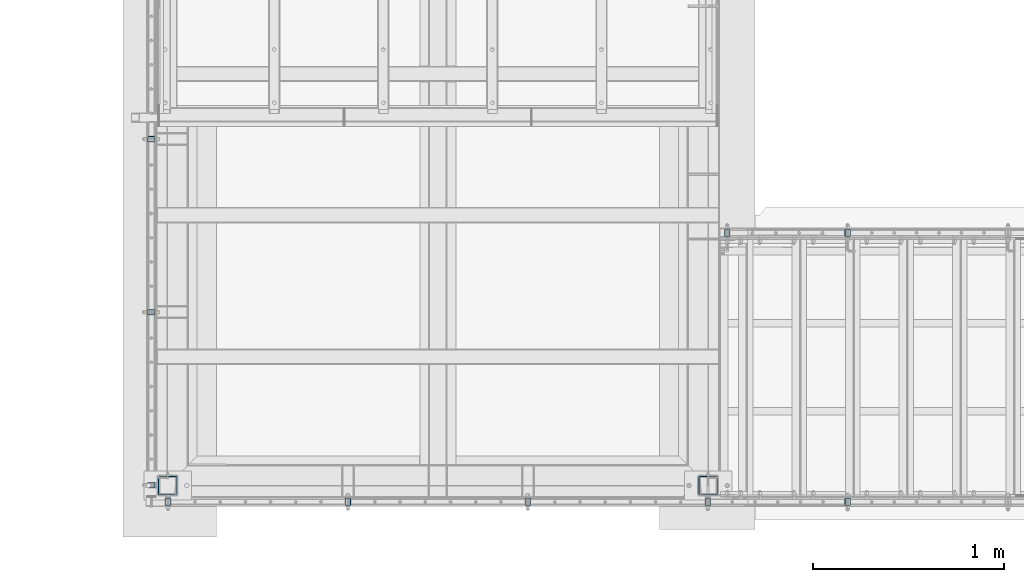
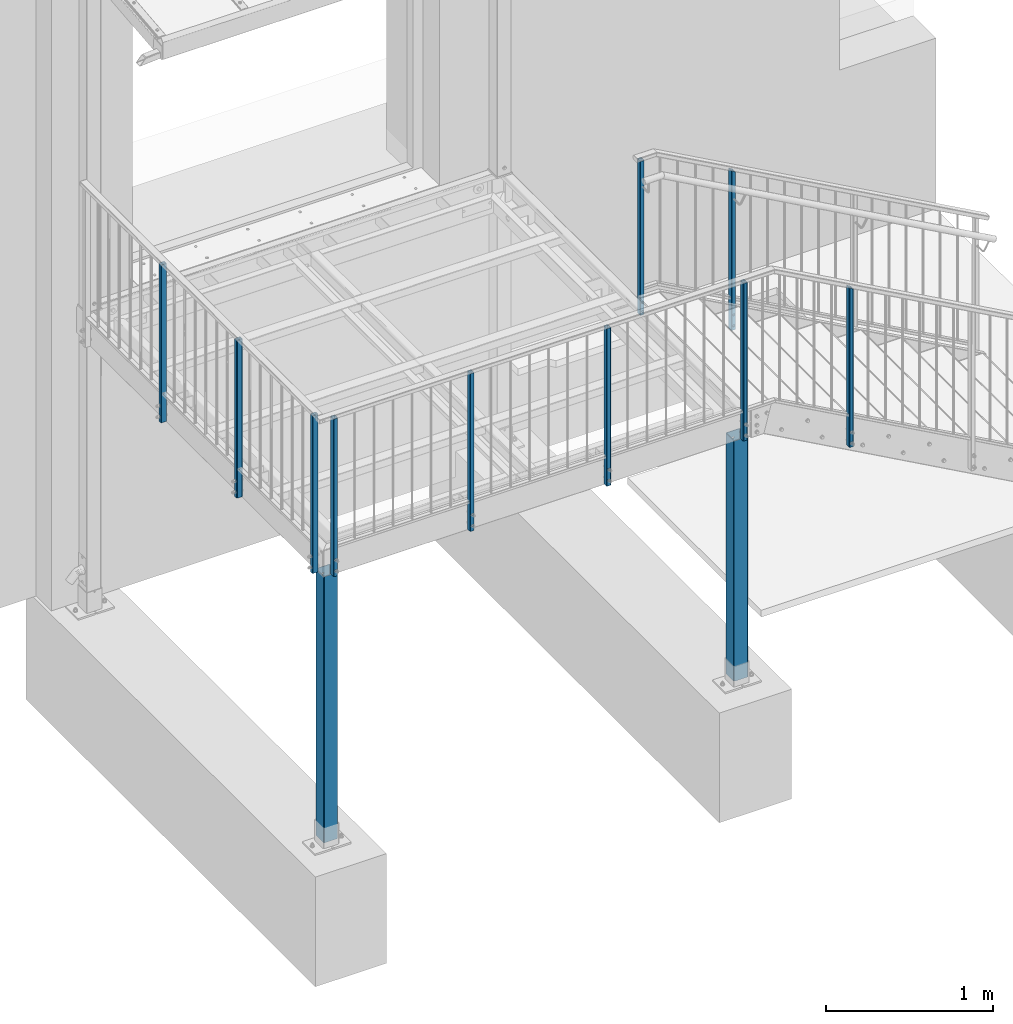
# One storey, part 1 of 116: 12 columns, 60 openings.
"""IFC2X3 building model written with IfcOpenShell, lengths in millimetres."""

from ifc_helpers import new_model, entity, si_unit, converted_unit, frame, frame_2d, origin, origin_with_axes, origin_2d, origin_2d_with_axis, place, context, project, spatial, hollow_rectangle, circle, extrude, clip, halfspace, material, element, save


model = new_model("IFC2X3")

# Units and contexts
model_context = context("Model", 3, precision=1e-09, world=origin_with_axes())
ifc_project = project(units=[si_unit("LENGTHUNIT", "METRE", prefix="MILLI"), si_unit("AREAUNIT", "SQUARE_METRE"), si_unit("VOLUMEUNIT", "CUBIC_METRE"), converted_unit("PLANEANGLEUNIT", "DEGREE", entity("IfcPlaneAngleMeasure", 0.01745329), si_unit("PLANEANGLEUNIT", "RADIAN"), dimensions=[0, 0, 0, 0, 0, 0, 0])], contexts=[model_context])

# Site, building, storey
site_placement = place(None, origin_with_axes())
site = spatial("IfcSite", under=ifc_project, at=site_placement, Name="Site", CompositionType="ELEMENT")
building_placement = place(site_placement, origin_with_axes())
building = spatial("IfcBuilding", under=site, at=building_placement, Name="Struktur 1", CompositionType="ELEMENT")
storey_placement = place(building_placement, origin_with_axes())
storey = spatial("IfcBuildingStorey", under=building, at=storey_placement, Name="Default Storey", CompositionType="ELEMENT", Elevation=0.0)

# Column, openings
ifc_material = material(Name="S235JR")
column_1_placement = place(None, frame((58267.049134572, 10455.357883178, -158.000000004), z_axis=(0.0, 0.0, 1.0), x_axis=(1.0, 0.0, 0.0)))
column_1 = element("IfcColumn", 1, at=column_1_placement, inside=storey, material=ifc_material, Name="-", ObjectType="-", context=model_context, shape_type="SweptSolid", body=[
    extrude(hollow_rectangle(XDim=30.0, YDim=40.0, WallThickness=3.0, InnerFilletRadius=3.0, OuterFilletRadius=6.0, at=origin_2d()), origin(), (0.0, 0.0, 1.0), 1123.000000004),
])
opening_1_placement = place(column_1_placement, frame((11.5, 0.0, 183.000000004), z_axis=(1.0, 0.0, 0.0), x_axis=(0.0, 1.0, 0.0)))
element("IfcOpeningElement", 2, at=opening_1_placement, cuts=column_1, ObjectType="Opening", context=model_context, shape_type="SweptSolid", body=[
    extrude(circle(Radius=5.001, at=origin_2d_with_axis()), origin(), (0.0, 0.0, 1.0), 4.0),
])
opening_2_placement = place(column_1_placement, frame((11.5, 0.0, 183.000000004), z_axis=(1.0, 0.0, 0.0), x_axis=(0.0, 1.0, 0.0)))
element("IfcOpeningElement", 3, at=opening_2_placement, cuts=column_1, ObjectType="Opening", context=model_context, shape_type="SweptSolid", body=[
    extrude(circle(Radius=5.001, at=origin_2d_with_axis()), origin(), (0.0, 0.0, 1.0), 4.0),
])
opening_3_placement = place(column_1_placement, frame((0.0, 20.5, 25.0), z_axis=(0.0, -1.0, 0.0), x_axis=(1.0, 0.0, 0.0)))
element("IfcOpeningElement", 4, at=opening_3_placement, cuts=column_1, ObjectType="Opening", context=model_context, shape_type="SweptSolid", body=[
    extrude(circle(Radius=8.001, at=origin_2d_with_axis()), origin(), (0.0, 0.0, 1.0), 4.0),
])
opening_4_placement = place(column_1_placement, frame((0.0, -16.5, 25.0), z_axis=(0.0, -1.0, 0.0), x_axis=(1.0, 0.0, 0.0)))
element("IfcOpeningElement", 5, at=opening_4_placement, cuts=column_1, ObjectType="Opening", context=model_context, shape_type="SweptSolid", body=[
    extrude(circle(Radius=8.001, at=origin_2d_with_axis()), origin(), (0.0, 0.0, 1.0), 4.0),
])
opening_5_placement = place(column_1_placement, frame((0.0, 20.5, 90.000000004), z_axis=(0.0, -1.0, 0.0), x_axis=(1.0, 0.0, 0.0)))
element("IfcOpeningElement", 6, at=opening_5_placement, cuts=column_1, ObjectType="Opening", context=model_context, shape_type="SweptSolid", body=[
    extrude(circle(Radius=8.001, at=origin_2d_with_axis()), origin(), (0.0, 0.0, 1.0), 4.0),
])
opening_6_placement = place(column_1_placement, frame((0.0, -16.5, 90.000000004), z_axis=(0.0, -1.0, 0.0), x_axis=(1.0, 0.0, 0.0)))
element("IfcOpeningElement", 7, at=opening_6_placement, cuts=column_1, ObjectType="Opening", context=model_context, shape_type="SweptSolid", body=[
    extrude(circle(Radius=8.001, at=origin_2d_with_axis()), origin(), (0.0, 0.0, 1.0), 4.0),
])

column_2_placement = place(None, frame((58897.049134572, 9047.359883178, -488.0), z_axis=(0.0, 0.0, -1.0), x_axis=(1.0, 0.0, 0.0)))
column_2 = element("IfcColumn", 8, at=column_2_placement, inside=storey, material=ifc_material, Name="-", ObjectType="-", context=model_context, shape_type="Clipping", body=[
    clip(extrude(hollow_rectangle(XDim=30.0, YDim=40.0, WallThickness=3.0, InnerFilletRadius=3.0, OuterFilletRadius=6.0, at=origin_2d()), origin(), (0.0, 0.0, -1.0), 1183.660016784), halfspace(frame((-44799.386950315, 9047.359883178, -25954.744590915), z_axis=(-0.484315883, 0.0, 0.874893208), x_axis=(0.0, 1.0, 0.0)), True)),
])
opening_7_placement = place(column_2_placement, frame((-11.5, 0.0, -513.0), z_axis=(-1.0, 0.0, 0.0), x_axis=(0.0, 1.0, 0.0)))
element("IfcOpeningElement", 9, at=opening_7_placement, cuts=column_2, ObjectType="Opening", context=model_context, shape_type="SweptSolid", body=[
    extrude(circle(Radius=5.001, at=frame_2d((0.0, -281.031462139), x_axis=(1.0, 0.0))), origin(), (0.0, 0.0, 1.0), 4.0),
])
opening_8_placement = place(column_2_placement, frame((11.5, -5.001, -215.360841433), z_axis=(-1.0, 0.0, 0.0), x_axis=(0.0, -1.0, 0.0)))
element("IfcOpeningElement", 10, at=opening_8_placement, cuts=column_2, ObjectType="Opening", context=model_context, shape_type="SweptSolid", body=[
    extrude(circle(Radius=5.001, at=frame_2d((-5.001, 0.0), x_axis=(1.0, 0.0))), origin(), (0.0, 0.0, -1.0), 4.0),
])
opening_9_placement = place(column_2_placement, frame((-8.001, -16.5, -30.0), z_axis=(0.0, 1.0, 0.0), x_axis=(-1.0, 0.0, 0.0)))
element("IfcOpeningElement", 11, at=opening_9_placement, cuts=column_2, ObjectType="Opening", context=model_context, shape_type="SweptSolid", body=[
    extrude(circle(Radius=8.001, at=frame_2d((-8.001, 0.0), x_axis=(1.0, 0.0))), origin(), (0.0, 0.0, -1.0), 4.0),
])
opening_10_placement = place(column_2_placement, frame((-8.001, 20.5, -30.0), z_axis=(0.0, 1.0, 0.0), x_axis=(-1.0, 0.0, 0.0)))
element("IfcOpeningElement", 12, at=opening_10_placement, cuts=column_2, ObjectType="Opening", context=model_context, shape_type="SweptSolid", body=[
    extrude(circle(Radius=8.001, at=frame_2d((-8.001, 0.0), x_axis=(1.0, 0.0))), origin(), (0.0, 0.0, -1.0), 4.0),
])
opening_11_placement = place(column_2_placement, frame((-8.001, -16.5, -110.0), z_axis=(0.0, 1.0, 0.0), x_axis=(-1.0, 0.0, 0.0)))
element("IfcOpeningElement", 13, at=opening_11_placement, cuts=column_2, ObjectType="Opening", context=model_context, shape_type="SweptSolid", body=[
    extrude(circle(Radius=8.001, at=frame_2d((-8.001, 0.0), x_axis=(1.0, 0.0))), origin(), (0.0, 0.0, -1.0), 4.0),
])
opening_12_placement = place(column_2_placement, frame((-8.001, 20.5, -110.0), z_axis=(0.0, 1.0, 0.0), x_axis=(-1.0, 0.0, 0.0)))
element("IfcOpeningElement", 14, at=opening_12_placement, cuts=column_2, ObjectType="Opening", context=model_context, shape_type="SweptSolid", body=[
    extrude(circle(Radius=8.001, at=frame_2d((-8.001, 0.0), x_axis=(1.0, 0.0))), origin(), (0.0, 0.0, -1.0), 4.0),
])

column_3_placement = place(None, frame((58897.049134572, 10455.357883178, -488.0), z_axis=(0.0, 0.0, 1.0), x_axis=(1.0, 0.0, 0.0)))
column_3 = element("IfcColumn", 15, at=column_3_placement, inside=storey, material=ifc_material, Name="-", ObjectType="-", context=model_context, shape_type="Clipping", body=[
    clip(extrude(hollow_rectangle(XDim=30.0, YDim=40.0, WallThickness=3.0, InnerFilletRadius=3.0, OuterFilletRadius=6.0, at=origin_2d()), origin(), (0.0, 0.0, 1.0), 1183.660016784), halfspace(frame((-44799.386950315, -10455.357883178, 25954.744590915), z_axis=(-0.484315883, 0.0, -0.874893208), x_axis=(0.0, -1.0, 0.0)), True)),
])
opening_13_placement = place(column_3_placement, frame((-11.5, -5.001, 231.968537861), z_axis=(1.0, 0.0, 0.0), x_axis=(0.0, 1.0, 0.0)))
element("IfcOpeningElement", 16, at=opening_13_placement, cuts=column_3, ObjectType="Opening", context=model_context, shape_type="SweptSolid", body=[
    extrude(circle(Radius=5.001, at=frame_2d((5.001, 0.0), x_axis=(1.0, 0.0))), origin(), (0.0, 0.0, -1.0), 4.0),
])
opening_14_placement = place(column_3_placement, frame((11.5, 0.0, 513.0), z_axis=(1.0, 0.0, 0.0), x_axis=(0.0, 1.0, 0.0)))
element("IfcOpeningElement", 17, at=opening_14_placement, cuts=column_3, ObjectType="Opening", context=model_context, shape_type="SweptSolid", body=[
    extrude(circle(Radius=5.001, at=frame_2d((0.0, -297.639158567), x_axis=(1.0, 0.0))), origin(), (0.0, 0.0, 1.0), 4.0),
])
opening_15_placement = place(column_3_placement, frame((0.0, 20.5, 110.0), z_axis=(0.0, -1.0, 0.0), x_axis=(1.0, 0.0, 0.0)))
element("IfcOpeningElement", 18, at=opening_15_placement, cuts=column_3, ObjectType="Opening", context=model_context, shape_type="SweptSolid", body=[
    extrude(circle(Radius=8.001, at=origin_2d_with_axis()), origin(), (0.0, 0.0, 1.0), 4.0),
])
opening_16_placement = place(column_3_placement, frame((0.0, -16.5, 110.0), z_axis=(0.0, -1.0, 0.0), x_axis=(1.0, 0.0, 0.0)))
element("IfcOpeningElement", 19, at=opening_16_placement, cuts=column_3, ObjectType="Opening", context=model_context, shape_type="SweptSolid", body=[
    extrude(circle(Radius=8.001, at=origin_2d_with_axis()), origin(), (0.0, 0.0, 1.0), 4.0),
])
opening_17_placement = place(column_3_placement, frame((0.0, 20.5, 30.0), z_axis=(0.0, -1.0, 0.0), x_axis=(1.0, 0.0, 0.0)))
element("IfcOpeningElement", 20, at=opening_17_placement, cuts=column_3, ObjectType="Opening", context=model_context, shape_type="SweptSolid", body=[
    extrude(circle(Radius=8.001, at=origin_2d_with_axis()), origin(), (0.0, 0.0, 1.0), 4.0),
])
opening_18_placement = place(column_3_placement, frame((0.0, -16.5, 30.0), z_axis=(0.0, -1.0, 0.0), x_axis=(1.0, 0.0, 0.0)))
element("IfcOpeningElement", 21, at=opening_18_placement, cuts=column_3, ObjectType="Opening", context=model_context, shape_type="SweptSolid", body=[
    extrude(circle(Radius=8.001, at=origin_2d_with_axis()), origin(), (0.0, 0.0, 1.0), 4.0),
])

column_4_placement = place(None, frame((55339.049134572, 9047.359883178, -185.0), z_axis=(0.0, 0.0, -1.0), x_axis=(1.0, 0.0, 0.0)))
column_4 = element("IfcColumn", 22, at=column_4_placement, inside=storey, material=ifc_material, Name="-", ObjectType="-", context=model_context, shape_type="SweptSolid", body=[
    extrude(hollow_rectangle(XDim=30.0, YDim=40.0, WallThickness=3.0, InnerFilletRadius=3.0, OuterFilletRadius=6.0, at=origin_2d()), origin(), (0.0, 0.0, -1.0), 1150.0),
])
opening_19_placement = place(column_4_placement, frame((11.5, -5.001, -210.0), z_axis=(-1.0, 0.0, 0.0), x_axis=(0.0, -1.0, 0.0)))
element("IfcOpeningElement", 23, at=opening_19_placement, cuts=column_4, ObjectType="Opening", context=model_context, shape_type="SweptSolid", body=[
    extrude(circle(Radius=5.001, at=frame_2d((-5.001, 0.0), x_axis=(1.0, 0.0))), origin(), (0.0, 0.0, -1.0), 4.0),
])
opening_20_placement = place(column_4_placement, frame((-8.001, -16.5, -120.0), z_axis=(0.0, 1.0, 0.0), x_axis=(-1.0, 0.0, 0.0)))
element("IfcOpeningElement", 24, at=opening_20_placement, cuts=column_4, ObjectType="Opening", context=model_context, shape_type="SweptSolid", body=[
    extrude(circle(Radius=8.001, at=frame_2d((-8.001, 0.0), x_axis=(1.0, 0.0))), origin(), (0.0, 0.0, -1.0), 4.0),
])
opening_21_placement = place(column_4_placement, frame((-8.001, -16.5, -40.0), z_axis=(0.0, 1.0, 0.0), x_axis=(-1.0, 0.0, 0.0)))
element("IfcOpeningElement", 25, at=opening_21_placement, cuts=column_4, ObjectType="Opening", context=model_context, shape_type="SweptSolid", body=[
    extrude(circle(Radius=8.001, at=frame_2d((-8.001, 0.0), x_axis=(1.0, 0.0))), origin(), (0.0, 0.0, -1.0), 4.0),
])
opening_22_placement = place(column_4_placement, frame((-8.001, 20.5, -120.0), z_axis=(0.0, 1.0, 0.0), x_axis=(-1.0, 0.0, 0.0)))
element("IfcOpeningElement", 26, at=opening_22_placement, cuts=column_4, ObjectType="Opening", context=model_context, shape_type="SweptSolid", body=[
    extrude(circle(Radius=8.001, at=frame_2d((-8.001, 0.0), x_axis=(1.0, 0.0))), origin(), (0.0, 0.0, -1.0), 4.0),
])
opening_23_placement = place(column_4_placement, frame((-8.001, 20.5, -40.0), z_axis=(0.0, 1.0, 0.0), x_axis=(-1.0, 0.0, 0.0)))
element("IfcOpeningElement", 27, at=opening_23_placement, cuts=column_4, ObjectType="Opening", context=model_context, shape_type="SweptSolid", body=[
    extrude(circle(Radius=8.001, at=frame_2d((-8.001, 0.0), x_axis=(1.0, 0.0))), origin(), (0.0, 0.0, -1.0), 4.0),
])

column_5_placement = place(None, frame((56281.049134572, 9047.359883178, -185.0), z_axis=(0.0, 0.0, -1.0), x_axis=(1.0, 0.0, 0.0)))
column_5 = element("IfcColumn", 28, at=column_5_placement, inside=storey, material=ifc_material, Name="-", ObjectType="-", context=model_context, shape_type="SweptSolid", body=[
    extrude(hollow_rectangle(XDim=30.0, YDim=40.0, WallThickness=3.0, InnerFilletRadius=3.0, OuterFilletRadius=6.0, at=origin_2d()), origin(), (0.0, 0.0, -1.0), 1150.0),
])
opening_24_placement = place(column_5_placement, frame((-11.5, 0.0, -210.0), z_axis=(-1.0, 0.0, 0.0), x_axis=(0.0, 1.0, 0.0)))
element("IfcOpeningElement", 29, at=opening_24_placement, cuts=column_5, ObjectType="Opening", context=model_context, shape_type="SweptSolid", body=[
    extrude(circle(Radius=5.001, at=origin_2d_with_axis()), origin(), (0.0, 0.0, 1.0), 4.0),
])
opening_25_placement = place(column_5_placement, frame((11.5, -5.001, -210.0), z_axis=(-1.0, 0.0, 0.0), x_axis=(0.0, -1.0, 0.0)))
element("IfcOpeningElement", 30, at=opening_25_placement, cuts=column_5, ObjectType="Opening", context=model_context, shape_type="SweptSolid", body=[
    extrude(circle(Radius=5.001, at=frame_2d((-5.001, 0.0), x_axis=(1.0, 0.0))), origin(), (0.0, 0.0, -1.0), 4.0),
])
opening_26_placement = place(column_5_placement, frame((-8.001, -16.5, -120.0), z_axis=(0.0, 1.0, 0.0), x_axis=(-1.0, 0.0, 0.0)))
element("IfcOpeningElement", 31, at=opening_26_placement, cuts=column_5, ObjectType="Opening", context=model_context, shape_type="SweptSolid", body=[
    extrude(circle(Radius=8.001, at=frame_2d((-8.001, 0.0), x_axis=(1.0, 0.0))), origin(), (0.0, 0.0, -1.0), 4.0),
])
opening_27_placement = place(column_5_placement, frame((-8.001, -16.5, -40.0), z_axis=(0.0, 1.0, 0.0), x_axis=(-1.0, 0.0, 0.0)))
element("IfcOpeningElement", 32, at=opening_27_placement, cuts=column_5, ObjectType="Opening", context=model_context, shape_type="SweptSolid", body=[
    extrude(circle(Radius=8.001, at=frame_2d((-8.001, 0.0), x_axis=(1.0, 0.0))), origin(), (0.0, 0.0, -1.0), 4.0),
])
opening_28_placement = place(column_5_placement, frame((-8.001, 20.5, -120.0), z_axis=(0.0, 1.0, 0.0), x_axis=(-1.0, 0.0, 0.0)))
element("IfcOpeningElement", 33, at=opening_28_placement, cuts=column_5, ObjectType="Opening", context=model_context, shape_type="SweptSolid", body=[
    extrude(circle(Radius=8.001, at=frame_2d((-8.001, 0.0), x_axis=(1.0, 0.0))), origin(), (0.0, 0.0, -1.0), 4.0),
])
opening_29_placement = place(column_5_placement, frame((-8.001, 20.5, -40.0), z_axis=(0.0, 1.0, 0.0), x_axis=(-1.0, 0.0, 0.0)))
element("IfcOpeningElement", 34, at=opening_29_placement, cuts=column_5, ObjectType="Opening", context=model_context, shape_type="SweptSolid", body=[
    extrude(circle(Radius=8.001, at=frame_2d((-8.001, 0.0), x_axis=(1.0, 0.0))), origin(), (0.0, 0.0, -1.0), 4.0),
])

column_6_placement = place(None, frame((57223.049134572, 9047.359883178, -185.0), z_axis=(0.0, 0.0, -1.0), x_axis=(1.0, 0.0, 0.0)))
column_6 = element("IfcColumn", 35, at=column_6_placement, inside=storey, material=ifc_material, Name="-", ObjectType="-", context=model_context, shape_type="SweptSolid", body=[
    extrude(hollow_rectangle(XDim=30.0, YDim=40.0, WallThickness=3.0, InnerFilletRadius=3.0, OuterFilletRadius=6.0, at=origin_2d()), origin(), (0.0, 0.0, -1.0), 1150.0),
])
opening_30_placement = place(column_6_placement, frame((-11.5, 0.0, -210.0), z_axis=(-1.0, 0.0, 0.0), x_axis=(0.0, 1.0, 0.0)))
element("IfcOpeningElement", 36, at=opening_30_placement, cuts=column_6, ObjectType="Opening", context=model_context, shape_type="SweptSolid", body=[
    extrude(circle(Radius=5.001, at=origin_2d_with_axis()), origin(), (0.0, 0.0, 1.0), 4.0),
])
opening_31_placement = place(column_6_placement, frame((11.5, -5.001, -210.0), z_axis=(-1.0, 0.0, 0.0), x_axis=(0.0, -1.0, 0.0)))
element("IfcOpeningElement", 37, at=opening_31_placement, cuts=column_6, ObjectType="Opening", context=model_context, shape_type="SweptSolid", body=[
    extrude(circle(Radius=5.001, at=frame_2d((-5.001, 0.0), x_axis=(1.0, 0.0))), origin(), (0.0, 0.0, -1.0), 4.0),
])
opening_32_placement = place(column_6_placement, frame((-8.001, -16.5, -120.0), z_axis=(0.0, 1.0, 0.0), x_axis=(-1.0, 0.0, 0.0)))
element("IfcOpeningElement", 38, at=opening_32_placement, cuts=column_6, ObjectType="Opening", context=model_context, shape_type="SweptSolid", body=[
    extrude(circle(Radius=8.001, at=frame_2d((-8.001, 0.0), x_axis=(1.0, 0.0))), origin(), (0.0, 0.0, -1.0), 4.0),
])
opening_33_placement = place(column_6_placement, frame((-8.001, -16.5, -40.0), z_axis=(0.0, 1.0, 0.0), x_axis=(-1.0, 0.0, 0.0)))
element("IfcOpeningElement", 39, at=opening_33_placement, cuts=column_6, ObjectType="Opening", context=model_context, shape_type="SweptSolid", body=[
    extrude(circle(Radius=8.001, at=frame_2d((-8.001, 0.0), x_axis=(1.0, 0.0))), origin(), (0.0, 0.0, -1.0), 4.0),
])
opening_34_placement = place(column_6_placement, frame((-8.001, 20.5, -120.0), z_axis=(0.0, 1.0, 0.0), x_axis=(-1.0, 0.0, 0.0)))
element("IfcOpeningElement", 40, at=opening_34_placement, cuts=column_6, ObjectType="Opening", context=model_context, shape_type="SweptSolid", body=[
    extrude(circle(Radius=8.001, at=frame_2d((-8.001, 0.0), x_axis=(1.0, 0.0))), origin(), (0.0, 0.0, -1.0), 4.0),
])
opening_35_placement = place(column_6_placement, frame((-8.001, 20.5, -40.0), z_axis=(0.0, 1.0, 0.0), x_axis=(-1.0, 0.0, 0.0)))
element("IfcOpeningElement", 41, at=opening_35_placement, cuts=column_6, ObjectType="Opening", context=model_context, shape_type="SweptSolid", body=[
    extrude(circle(Radius=8.001, at=frame_2d((-8.001, 0.0), x_axis=(1.0, 0.0))), origin(), (0.0, 0.0, -1.0), 4.0),
])

column_7_placement = place(None, frame((58165.049134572, 9047.359883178, -185.0), z_axis=(0.0, 0.0, -1.0), x_axis=(1.0, 0.0, 0.0)))
column_7 = element("IfcColumn", 42, at=column_7_placement, inside=storey, material=ifc_material, Name="-", ObjectType="-", context=model_context, shape_type="SweptSolid", body=[
    extrude(hollow_rectangle(XDim=30.0, YDim=40.0, WallThickness=3.0, InnerFilletRadius=3.0, OuterFilletRadius=6.0, at=origin_2d()), origin(), (0.0, 0.0, -1.0), 1150.0),
])
opening_36_placement = place(column_7_placement, frame((-11.5, 0.0, -210.0), z_axis=(-1.0, 0.0, 0.0), x_axis=(0.0, 1.0, 0.0)))
element("IfcOpeningElement", 43, at=opening_36_placement, cuts=column_7, ObjectType="Opening", context=model_context, shape_type="SweptSolid", body=[
    extrude(circle(Radius=5.001, at=origin_2d_with_axis()), origin(), (0.0, 0.0, 1.0), 4.0),
])
opening_37_placement = place(column_7_placement, frame((11.5, -5.001, -210.0), z_axis=(-1.0, 0.0, 0.0), x_axis=(0.0, -1.0, 0.0)))
element("IfcOpeningElement", 44, at=opening_37_placement, cuts=column_7, ObjectType="Opening", context=model_context, shape_type="SweptSolid", body=[
    extrude(circle(Radius=5.001, at=frame_2d((-5.001, 0.0), x_axis=(1.0, 0.0))), origin(), (0.0, 0.0, -1.0), 4.0),
])
opening_38_placement = place(column_7_placement, frame((-8.001, -16.5, -120.0), z_axis=(0.0, 1.0, 0.0), x_axis=(-1.0, 0.0, 0.0)))
element("IfcOpeningElement", 45, at=opening_38_placement, cuts=column_7, ObjectType="Opening", context=model_context, shape_type="SweptSolid", body=[
    extrude(circle(Radius=8.001, at=frame_2d((-8.001, 0.0), x_axis=(1.0, 0.0))), origin(), (0.0, 0.0, -1.0), 4.0),
])
opening_39_placement = place(column_7_placement, frame((-8.001, -16.5, -40.0), z_axis=(0.0, 1.0, 0.0), x_axis=(-1.0, 0.0, 0.0)))
element("IfcOpeningElement", 46, at=opening_39_placement, cuts=column_7, ObjectType="Opening", context=model_context, shape_type="SweptSolid", body=[
    extrude(circle(Radius=8.001, at=frame_2d((-8.001, 0.0), x_axis=(1.0, 0.0))), origin(), (0.0, 0.0, -1.0), 4.0),
])
opening_40_placement = place(column_7_placement, frame((-8.001, 20.5, -120.0), z_axis=(0.0, 1.0, 0.0), x_axis=(-1.0, 0.0, 0.0)))
element("IfcOpeningElement", 47, at=opening_40_placement, cuts=column_7, ObjectType="Opening", context=model_context, shape_type="SweptSolid", body=[
    extrude(circle(Radius=8.001, at=frame_2d((-8.001, 0.0), x_axis=(1.0, 0.0))), origin(), (0.0, 0.0, -1.0), 4.0),
])
opening_41_placement = place(column_7_placement, frame((-8.001, 20.5, -40.0), z_axis=(0.0, 1.0, 0.0), x_axis=(-1.0, 0.0, 0.0)))
element("IfcOpeningElement", 48, at=opening_41_placement, cuts=column_7, ObjectType="Opening", context=model_context, shape_type="SweptSolid", body=[
    extrude(circle(Radius=8.001, at=frame_2d((-8.001, 0.0), x_axis=(1.0, 0.0))), origin(), (0.0, 0.0, -1.0), 4.0),
])

column_8_placement = place(None, frame((55252.049134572, 9134.358883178, -185.0), z_axis=(0.0, 0.0, -1.0), x_axis=(0.0, 1.0, 0.0)))
column_8 = element("IfcColumn", 49, at=column_8_placement, inside=storey, material=ifc_material, Name="-", ObjectType="-", context=model_context, shape_type="SweptSolid", body=[
    extrude(hollow_rectangle(XDim=30.0, YDim=40.0, WallThickness=3.0, InnerFilletRadius=3.0, OuterFilletRadius=6.0, at=origin_2d()), origin(), (0.0, 0.0, -1.0), 1150.0),
])
opening_42_placement = place(column_8_placement, frame((11.5, -5.001, -210.0), z_axis=(-1.0, 0.0, 0.0), x_axis=(0.0, -1.0, 0.0)))
element("IfcOpeningElement", 50, at=opening_42_placement, cuts=column_8, ObjectType="Opening", context=model_context, shape_type="SweptSolid", body=[
    extrude(circle(Radius=5.001, at=frame_2d((-5.001, 0.0), x_axis=(1.0, 0.0))), origin(), (0.0, 0.0, -1.0), 4.0),
])
opening_43_placement = place(column_8_placement, frame((8.001, 16.5, -120.0), z_axis=(0.0, -1.0, 0.0), x_axis=(1.0, 0.0, 0.0)))
element("IfcOpeningElement", 51, at=opening_43_placement, cuts=column_8, ObjectType="Opening", context=model_context, shape_type="SweptSolid", body=[
    extrude(circle(Radius=8.001, at=frame_2d((-8.001, 0.0), x_axis=(1.0, 0.0))), origin(), (0.0, 0.0, -1.0), 4.0),
])
opening_44_placement = place(column_8_placement, frame((8.001, 16.5, -40.0), z_axis=(0.0, -1.0, 0.0), x_axis=(1.0, 0.0, 0.0)))
element("IfcOpeningElement", 52, at=opening_44_placement, cuts=column_8, ObjectType="Opening", context=model_context, shape_type="SweptSolid", body=[
    extrude(circle(Radius=8.001, at=frame_2d((-8.001, 0.0), x_axis=(1.0, 0.0))), origin(), (0.0, 0.0, -1.0), 4.0),
])
opening_45_placement = place(column_8_placement, frame((8.001, -20.5, -120.0), z_axis=(0.0, -1.0, 0.0), x_axis=(1.0, 0.0, 0.0)))
element("IfcOpeningElement", 53, at=opening_45_placement, cuts=column_8, ObjectType="Opening", context=model_context, shape_type="SweptSolid", body=[
    extrude(circle(Radius=8.001, at=frame_2d((-8.001, 0.0), x_axis=(1.0, 0.0))), origin(), (0.0, 0.0, -1.0), 4.0),
])
opening_46_placement = place(column_8_placement, frame((8.001, -20.5, -40.0), z_axis=(0.0, -1.0, 0.0), x_axis=(1.0, 0.0, 0.0)))
element("IfcOpeningElement", 54, at=opening_46_placement, cuts=column_8, ObjectType="Opening", context=model_context, shape_type="SweptSolid", body=[
    extrude(circle(Radius=8.001, at=frame_2d((-8.001, 0.0), x_axis=(1.0, 0.0))), origin(), (0.0, 0.0, -1.0), 4.0),
])

column_9_placement = place(None, frame((55252.049134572, 10040.358883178, -185.0), z_axis=(0.0, 0.0, -1.0), x_axis=(0.0, 1.0, 0.0)))
column_9 = element("IfcColumn", 55, at=column_9_placement, inside=storey, material=ifc_material, Name="-", ObjectType="-", context=model_context, shape_type="SweptSolid", body=[
    extrude(hollow_rectangle(XDim=30.0, YDim=40.0, WallThickness=3.0, InnerFilletRadius=3.0, OuterFilletRadius=6.0, at=origin_2d()), origin(), (0.0, 0.0, -1.0), 1150.0),
])
opening_47_placement = place(column_9_placement, frame((-11.5, 0.0, -210.0), z_axis=(-1.0, 0.0, 0.0), x_axis=(0.0, 1.0, 0.0)))
element("IfcOpeningElement", 56, at=opening_47_placement, cuts=column_9, ObjectType="Opening", context=model_context, shape_type="SweptSolid", body=[
    extrude(circle(Radius=5.001, at=origin_2d_with_axis()), origin(), (0.0, 0.0, 1.0), 4.0),
])
opening_48_placement = place(column_9_placement, frame((11.5, -5.001, -210.0), z_axis=(-1.0, 0.0, 0.0), x_axis=(0.0, -1.0, 0.0)))
element("IfcOpeningElement", 57, at=opening_48_placement, cuts=column_9, ObjectType="Opening", context=model_context, shape_type="SweptSolid", body=[
    extrude(circle(Radius=5.001, at=frame_2d((-5.001, 0.0), x_axis=(1.0, 0.0))), origin(), (0.0, 0.0, -1.0), 4.0),
])
opening_49_placement = place(column_9_placement, frame((8.001, 16.5, -120.0), z_axis=(0.0, -1.0, 0.0), x_axis=(1.0, 0.0, 0.0)))
element("IfcOpeningElement", 58, at=opening_49_placement, cuts=column_9, ObjectType="Opening", context=model_context, shape_type="SweptSolid", body=[
    extrude(circle(Radius=8.001, at=frame_2d((-8.001, 0.0), x_axis=(1.0, 0.0))), origin(), (0.0, 0.0, -1.0), 4.0),
])
opening_50_placement = place(column_9_placement, frame((8.001, 16.5, -40.0), z_axis=(0.0, -1.0, 0.0), x_axis=(1.0, 0.0, 0.0)))
element("IfcOpeningElement", 59, at=opening_50_placement, cuts=column_9, ObjectType="Opening", context=model_context, shape_type="SweptSolid", body=[
    extrude(circle(Radius=8.001, at=frame_2d((-8.001, 0.0), x_axis=(1.0, 0.0))), origin(), (0.0, 0.0, -1.0), 4.0),
])
opening_51_placement = place(column_9_placement, frame((8.001, -20.5, -120.0), z_axis=(0.0, -1.0, 0.0), x_axis=(1.0, 0.0, 0.0)))
element("IfcOpeningElement", 60, at=opening_51_placement, cuts=column_9, ObjectType="Opening", context=model_context, shape_type="SweptSolid", body=[
    extrude(circle(Radius=8.001, at=frame_2d((-8.001, 0.0), x_axis=(1.0, 0.0))), origin(), (0.0, 0.0, -1.0), 4.0),
])
opening_52_placement = place(column_9_placement, frame((8.001, -20.5, -40.0), z_axis=(0.0, -1.0, 0.0), x_axis=(1.0, 0.0, 0.0)))
element("IfcOpeningElement", 61, at=opening_52_placement, cuts=column_9, ObjectType="Opening", context=model_context, shape_type="SweptSolid", body=[
    extrude(circle(Radius=8.001, at=frame_2d((-8.001, 0.0), x_axis=(1.0, 0.0))), origin(), (0.0, 0.0, -1.0), 4.0),
])

column_10_placement = place(None, frame((55252.049134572, 10946.358883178, -185.0), z_axis=(0.0, 0.0, -1.0), x_axis=(0.0, 1.0, 0.0)))
column_10 = element("IfcColumn", 62, at=column_10_placement, inside=storey, material=ifc_material, Name="-", ObjectType="-", context=model_context, shape_type="SweptSolid", body=[
    extrude(hollow_rectangle(XDim=30.0, YDim=40.0, WallThickness=3.0, InnerFilletRadius=3.0, OuterFilletRadius=6.0, at=origin_2d()), origin(), (0.0, 0.0, -1.0), 1150.0),
])
opening_53_placement = place(column_10_placement, frame((-11.5, 0.0, -210.0), z_axis=(-1.0, 0.0, 0.0), x_axis=(0.0, 1.0, 0.0)))
element("IfcOpeningElement", 63, at=opening_53_placement, cuts=column_10, ObjectType="Opening", context=model_context, shape_type="SweptSolid", body=[
    extrude(circle(Radius=5.001, at=origin_2d_with_axis()), origin(), (0.0, 0.0, 1.0), 4.0),
])
opening_54_placement = place(column_10_placement, frame((11.5, -5.001, -210.0), z_axis=(-1.0, 0.0, 0.0), x_axis=(0.0, -1.0, 0.0)))
element("IfcOpeningElement", 64, at=opening_54_placement, cuts=column_10, ObjectType="Opening", context=model_context, shape_type="SweptSolid", body=[
    extrude(circle(Radius=5.001, at=frame_2d((-5.001, 0.0), x_axis=(1.0, 0.0))), origin(), (0.0, 0.0, -1.0), 4.0),
])
opening_55_placement = place(column_10_placement, frame((8.001, 16.5, -120.0), z_axis=(0.0, -1.0, 0.0), x_axis=(1.0, 0.0, 0.0)))
element("IfcOpeningElement", 65, at=opening_55_placement, cuts=column_10, ObjectType="Opening", context=model_context, shape_type="SweptSolid", body=[
    extrude(circle(Radius=8.001, at=frame_2d((-8.001, 0.0), x_axis=(1.0, 0.0))), origin(), (0.0, 0.0, -1.0), 4.0),
])
opening_56_placement = place(column_10_placement, frame((8.001, 16.5, -40.0), z_axis=(0.0, -1.0, 0.0), x_axis=(1.0, 0.0, 0.0)))
element("IfcOpeningElement", 66, at=opening_56_placement, cuts=column_10, ObjectType="Opening", context=model_context, shape_type="SweptSolid", body=[
    extrude(circle(Radius=8.001, at=frame_2d((-8.001, 0.0), x_axis=(1.0, 0.0))), origin(), (0.0, 0.0, -1.0), 4.0),
])
opening_57_placement = place(column_10_placement, frame((8.001, -20.5, -120.0), z_axis=(0.0, -1.0, 0.0), x_axis=(1.0, 0.0, 0.0)))
element("IfcOpeningElement", 67, at=opening_57_placement, cuts=column_10, ObjectType="Opening", context=model_context, shape_type="SweptSolid", body=[
    extrude(circle(Radius=8.001, at=frame_2d((-8.001, 0.0), x_axis=(1.0, 0.0))), origin(), (0.0, 0.0, -1.0), 4.0),
])
opening_58_placement = place(column_10_placement, frame((8.001, -20.5, -40.0), z_axis=(0.0, -1.0, 0.0), x_axis=(1.0, 0.0, 0.0)))
element("IfcOpeningElement", 68, at=opening_58_placement, cuts=column_10, ObjectType="Opening", context=model_context, shape_type="SweptSolid", body=[
    extrude(circle(Radius=8.001, at=frame_2d((-8.001, 0.0), x_axis=(1.0, 0.0))), origin(), (0.0, 0.0, -1.0), 4.0),
])

# Column, opening
column_11_placement = place(None, frame((58167.049134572, 9132.358883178, -1959.0), z_axis=(0.0, 0.0, 1.0), x_axis=(0.0, 1.0, 0.0)))
column_11 = element("IfcColumn", 69, at=column_11_placement, inside=storey, material=ifc_material, Name="-", ObjectType="-", context=model_context, shape_type="SweptSolid", body=[
    extrude(hollow_rectangle(XDim=100.0, YDim=100.0, WallThickness=4.0, InnerFilletRadius=4.0, OuterFilletRadius=8.0, at=origin_2d()), origin(), (0.0, 0.0, 1.0), 1754.0),
])
opening_59_placement = place(column_11_placement, frame((45.5, 0.0, 1704.0), z_axis=(1.0, 0.0, 0.0), x_axis=(0.0, 1.0, 0.0)))
element("IfcOpeningElement", 70, at=opening_59_placement, cuts=column_11, ObjectType="Opening", context=model_context, shape_type="SweptSolid", body=[
    extrude(circle(Radius=7.001, at=origin_2d_with_axis()), origin(), (0.0, 0.0, 1.0), 5.0),
])

column_12_placement = place(None, frame((55337.049134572, 9132.358883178, -2147.0), z_axis=(0.0, 0.0, -1.0), x_axis=(0.0, 1.0, 0.0)))
column_12 = element("IfcColumn", 71, at=column_12_placement, inside=storey, material=ifc_material, Name="-", ObjectType="-", context=model_context, shape_type="SweptSolid", body=[
    extrude(hollow_rectangle(XDim=100.0, YDim=100.0, WallThickness=4.0, InnerFilletRadius=4.0, OuterFilletRadius=8.0, at=origin_2d()), origin(), (0.0, 0.0, -1.0), 1942.0),
])
opening_60_placement = place(column_12_placement, frame((45.5, -7.001, -1892.0), z_axis=(-1.0, 0.0, 0.0), x_axis=(0.0, -1.0, 0.0)))
element("IfcOpeningElement", 72, at=opening_60_placement, cuts=column_12, ObjectType="Opening", context=model_context, shape_type="SweptSolid", body=[
    extrude(circle(Radius=7.001, at=frame_2d((-7.001, 0.0), x_axis=(1.0, 0.0))), origin(), (0.0, 0.0, -1.0), 5.0),
])

save(model, "model.ifc")
